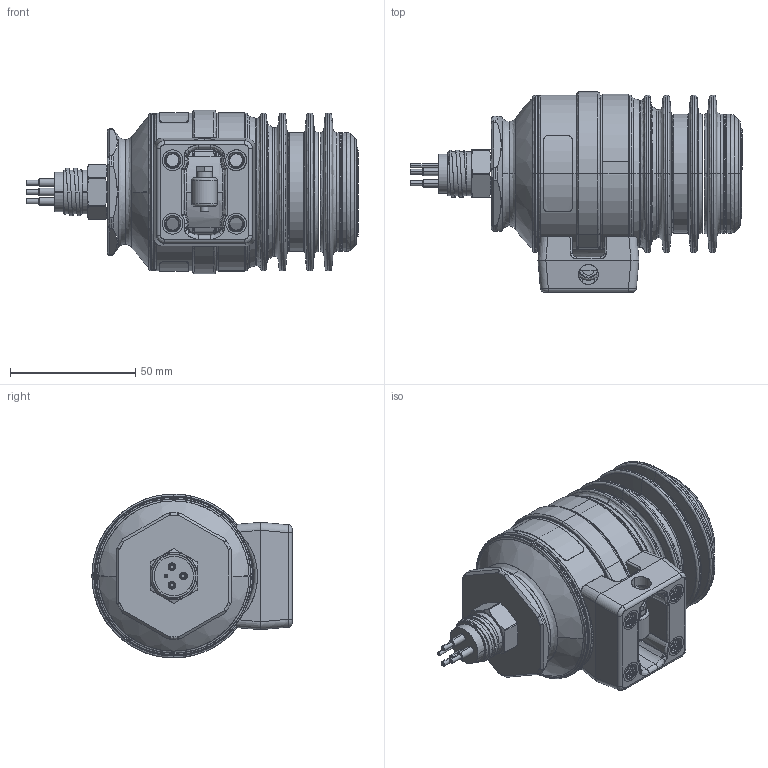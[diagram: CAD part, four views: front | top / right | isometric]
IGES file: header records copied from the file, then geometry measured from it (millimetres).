
Start section: SolidWorks IGES file using analytic representation for surfaces
Global section: file name: S:\3D_Product_Models\Lights\LSL-SPT-ALTI-A-B-SB-MCBH3-0B_20171107a.IGS; native system: SolidWorks 2017; preprocessor: SolidWorks 2017; author: jason.buss; date: 171107.153216; units: millimetre
Bounding box: 132.68 x 80 x 65.51 mm (x, y, z)
Surface area: 45385.8 mm2 (no closed solid volume)
Topology: 0 solids, 0 shells, 602 faces, 7897 edges, 7890 vertices
Faces by surface type: revolution 314, bspline 288
